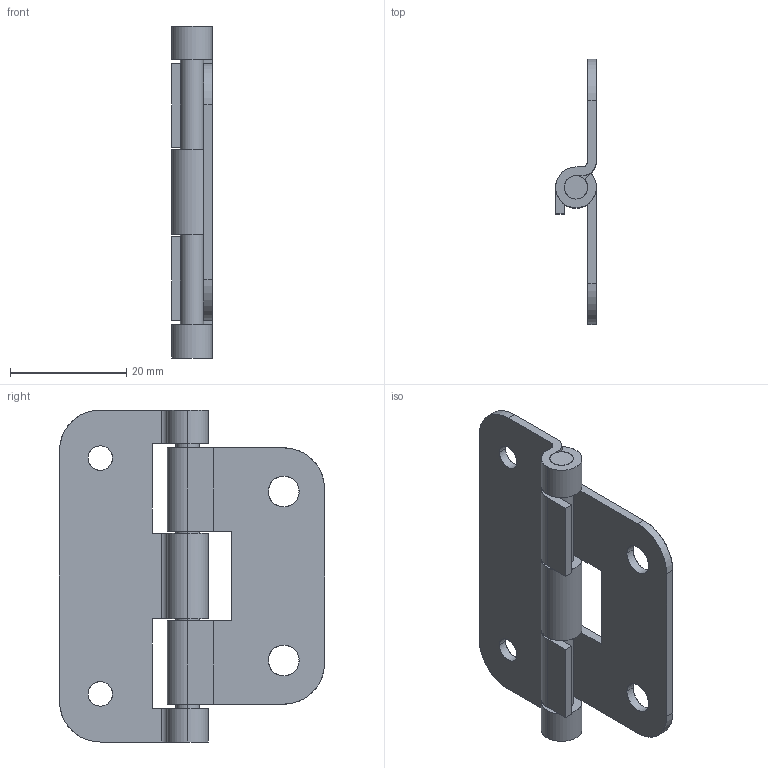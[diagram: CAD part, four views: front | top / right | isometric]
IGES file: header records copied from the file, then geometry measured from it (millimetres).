
Start section: SolidWorks IGES file using analytic representation for surfaces
Global section: file name: Z:\Mes documents\ATAO iges\Gamme CX\CX 421\CX 421.IGS; native system: SolidWorks 2008; preprocessor: SolidWorks 2008; author: cbrechard; date: 110629.085656; units: millimetre
Bounding box: 7 x 45.5 x 57 mm (x, y, z)
Surface area: 6758.2 mm2 (no closed solid volume)
Topology: 0 solids, 0 shells, 78 faces, 1292 edges, 1292 vertices
Faces by surface type: revolution 42, bspline 36
